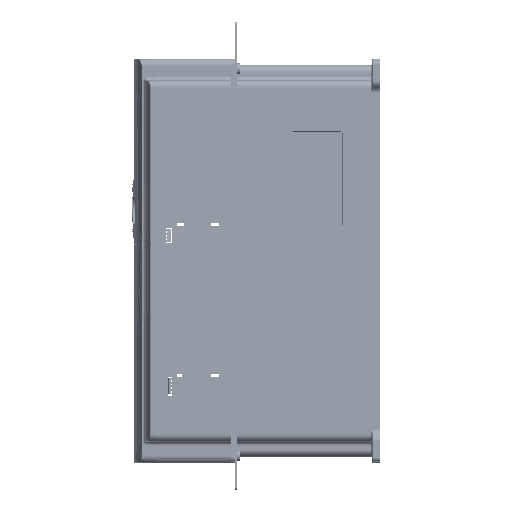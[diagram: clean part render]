
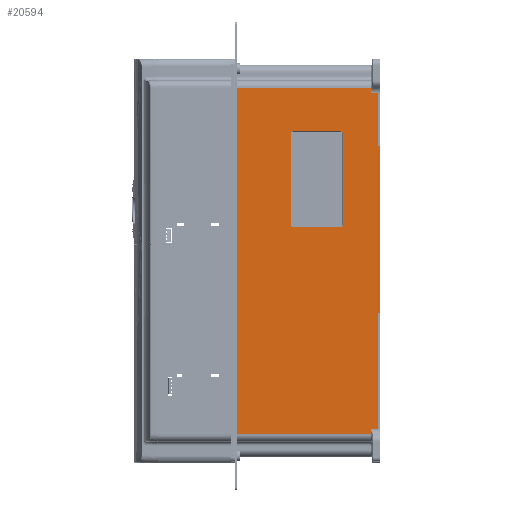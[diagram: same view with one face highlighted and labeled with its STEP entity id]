
A CAD part, left-side view. The second image highlights one B-rep face of the part: STEP entity #20594.
In plain terms, the highlighted planar face has unit normal (-1, 0, 0).
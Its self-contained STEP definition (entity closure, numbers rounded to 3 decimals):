
#2=CARTESIAN_POINT('',(-80.,-63.,29.));
#3=DIRECTION('',(1.,0.,0.));
#4=DIRECTION('',(0.,-1.,0.));
#5=AXIS2_PLACEMENT_3D('',#2,#3,#4);
#7=DIRECTION('',(0.,0.,-1.));
#8=VECTOR('',#7,71.4);
#9=CARTESIAN_POINT('',(-80.,-65.458,100.4));
#10=LINE('',#9,#8);
#11=CARTESIAN_POINT('',(-80.,-63.,100.4));
#12=DIRECTION('',(1.,0.,0.));
#13=DIRECTION('',(0.,0.,1.));
#14=AXIS2_PLACEMENT_3D('',#11,#12,#13);
#16=DIRECTION('',(0.,-1.,0.));
#17=VECTOR('',#16,36.4);
#18=CARTESIAN_POINT('',(-80.,-26.6,102.858));
#19=LINE('',#18,#17);
#20=CARTESIAN_POINT('',(-80.,-26.6,100.4));
#21=DIRECTION('',(1.,0.,0.));
#22=DIRECTION('',(0.,1.,0.));
#23=AXIS2_PLACEMENT_3D('',#20,#21,#22);
#25=DIRECTION('',(0.,0.,1.));
#26=VECTOR('',#25,71.4);
#27=CARTESIAN_POINT('',(-80.,-24.142,29.));
#28=LINE('',#27,#26);
#29=CARTESIAN_POINT('',(-80.,-26.6,29.));
#30=DIRECTION('',(1.,0.,0.));
#31=DIRECTION('',(0.,0.,-1.));
#32=AXIS2_PLACEMENT_3D('',#29,#30,#31);
#34=DIRECTION('',(0.,1.,0.));
#35=VECTOR('',#34,36.4);
#36=CARTESIAN_POINT('',(-80.,-63.,26.542));
#37=LINE('',#36,#35);
#38=DIRECTION('',(0.,0.,-1.));
#39=VECTOR('',#38,4.071);
#40=CARTESIAN_POINT('',(-80.,-87.5,137.));
#41=LINE('',#40,#39);
#42=DIRECTION('',(0.,0.,1.));
#43=VECTOR('',#42,42.129);
#44=CARTESIAN_POINT('',(-80.,-93.5,90.8));
#45=LINE('',#44,#43);
#46=DIRECTION('',(0.,1.,0.));
#47=VECTOR('',#46,1.5);
#48=CARTESIAN_POINT('',(-80.,-95.,90.8));
#49=LINE('',#48,#47);
#50=DIRECTION('',(0.,1.,0.));
#51=VECTOR('',#50,1.5);
#52=CARTESIAN_POINT('',(-80.,-95.,-40.8));
#53=LINE('',#52,#51);
#54=DIRECTION('',(0.,0.,1.));
#55=VECTOR('',#54,92.129);
#56=CARTESIAN_POINT('',(-80.,-93.5,-132.929));
#57=LINE('',#56,#55);
#58=DIRECTION('',(0.,0.,-1.));
#59=VECTOR('',#58,4.071);
#60=CARTESIAN_POINT('',(-80.,-87.5,-132.929));
#61=LINE('',#60,#59);
#62=DIRECTION('',(0.,-1.,0.));
#63=VECTOR('',#62,107.5);
#64=CARTESIAN_POINT('',(-80.,20.,-137.));
#65=LINE('',#64,#63);
#66=DIRECTION('',(0.,0.,1.));
#67=VECTOR('',#66,274.);
#68=CARTESIAN_POINT('',(-80.,20.,-137.));
#69=LINE('',#68,#67);
#70=DIRECTION('',(0.,-1.,0.));
#71=VECTOR('',#70,107.5);
#72=CARTESIAN_POINT('',(-80.,20.,137.));
#73=LINE('',#72,#71);
#11767=DIRECTION('',(0.,0.,1.));
#11768=VECTOR('',#11767,131.6);
#11769=CARTESIAN_POINT('',(-80.,-95.,-40.8));
#11770=LINE('',#11769,#11768);
#13605=DIRECTION('',(0.,-1.,0.));
#13606=VECTOR('',#13605,6.);
#13607=CARTESIAN_POINT('',(-80.,-87.5,
-132.929));
#13608=LINE('',#13607,#13606);
#16298=DIRECTION('',(0.,1.,0.));
#16299=VECTOR('',#16298,6.);
#16300=CARTESIAN_POINT('',(-80.,-93.5,132.929));
#16301=LINE('',#16300,#16299);
#16678=CARTESIAN_POINT('',(-80.,-93.5,-132.929));
#16679=CARTESIAN_POINT('',(-80.,-93.5,-40.8));
#16680=VERTEX_POINT('',#16678);
#16681=VERTEX_POINT('',#16679);
#16682=CARTESIAN_POINT('',(-80.,-93.5,90.8));
#16683=CARTESIAN_POINT('',(-80.,-93.5,132.929));
#16684=VERTEX_POINT('',#16682);
#16685=VERTEX_POINT('',#16683);
#17233=CARTESIAN_POINT('',(-80.,-95.,-40.8));
#17234=VERTEX_POINT('',#17233);
#17237=CARTESIAN_POINT('',(-80.,-95.,90.8));
#17238=VERTEX_POINT('',#17237);
#18262=CARTESIAN_POINT('',(-80.,-87.5,137.));
#18263=CARTESIAN_POINT('',(-80.,-87.5,132.929));
#18264=VERTEX_POINT('',#18262);
#18265=VERTEX_POINT('',#18263);
#18607=CARTESIAN_POINT('',(-80.,-65.458,29.));
#18608=CARTESIAN_POINT('',(-80.,-63.,26.542));
#18609=VERTEX_POINT('',#18607);
#18610=VERTEX_POINT('',#18608);
#18615=CARTESIAN_POINT('',(-80.,-26.6,26.542));
#18616=VERTEX_POINT('',#18615);
#18619=CARTESIAN_POINT('',(-80.,-24.142,29.));
#18620=VERTEX_POINT('',#18619);
#18623=CARTESIAN_POINT('',(-80.,-24.142,100.4));
#18624=VERTEX_POINT('',#18623);
#18627=CARTESIAN_POINT('',(-80.,-26.6,102.858));
#18628=VERTEX_POINT('',#18627);
#18631=CARTESIAN_POINT('',(-80.,-63.,102.858));
#18632=VERTEX_POINT('',#18631);
#18635=CARTESIAN_POINT('',(-80.,-65.458,100.4));
#18636=VERTEX_POINT('',#18635);
#18936=CARTESIAN_POINT('',(-80.,-87.5,
-132.929));
#18937=VERTEX_POINT('',#18936);
#20041=CARTESIAN_POINT('',(-80.,20.,-137.));
#20042=CARTESIAN_POINT('',(-80.,20.,137.));
#20043=VERTEX_POINT('',#20041);
#20044=VERTEX_POINT('',#20042);
#20139=CARTESIAN_POINT('',(-80.,-87.5,-137.));
#20140=VERTEX_POINT('',#20139);
#20545=CARTESIAN_POINT('',(-80.,-95.,-155.));
#20546=DIRECTION('',(-1.,0.,0.));
#20547=DIRECTION('',(0.,0.,1.));
#20548=AXIS2_PLACEMENT_3D('',#20545,#20546,#20547);
#20549=PLANE('',#20548);
#20551=ORIENTED_EDGE('',*,*,#20550,.T.);
#20553=ORIENTED_EDGE('',*,*,#20552,.F.);
#20555=ORIENTED_EDGE('',*,*,#20554,.F.);
#20557=ORIENTED_EDGE('',*,*,#20556,.F.);
#20559=ORIENTED_EDGE('',*,*,#20558,.F.);
#20561=ORIENTED_EDGE('',*,*,#20560,.T.);
#20563=ORIENTED_EDGE('',*,*,#20562,.F.);
#20565=ORIENTED_EDGE('',*,*,#20564,.F.);
#20567=ORIENTED_EDGE('',*,*,#20566,.T.);
#20569=ORIENTED_EDGE('',*,*,#20568,.F.);
#20571=ORIENTED_EDGE('',*,*,#20570,.T.);
#20573=ORIENTED_EDGE('',*,*,#20572,.T.);
#20574=EDGE_LOOP('',(#20551,#20553,#20555,#20557,#20559,#20561,#20563,#20565,
#20567,#20569,#20571,#20573));
#20575=FACE_OUTER_BOUND('',#20574,.F.);
#20577=ORIENTED_EDGE('',*,*,#20576,.F.);
#20579=ORIENTED_EDGE('',*,*,#20578,.F.);
#20581=ORIENTED_EDGE('',*,*,#20580,.F.);
#20583=ORIENTED_EDGE('',*,*,#20582,.F.);
#20585=ORIENTED_EDGE('',*,*,#20584,.F.);
#20587=ORIENTED_EDGE('',*,*,#20586,.F.);
#20589=ORIENTED_EDGE('',*,*,#20588,.F.);
#20591=ORIENTED_EDGE('',*,*,#20590,.F.);
#20592=EDGE_LOOP('',(#20577,#20579,#20581,#20583,#20585,#20587,#20589,#20591));
#20593=FACE_BOUND('',#20592,.F.);
#6=CIRCLE('',#5,2.458);
#15=CIRCLE('',#14,2.458);
#24=CIRCLE('',#23,2.458);
#33=CIRCLE('',#32,2.458);
#20550=EDGE_CURVE('',#18264,#18265,#41,.T.);
#20552=EDGE_CURVE('',#16685,#18265,#16301,.T.);
#20554=EDGE_CURVE('',#16684,#16685,#45,.T.);
#20556=EDGE_CURVE('',#17238,#16684,#49,.T.);
#20558=EDGE_CURVE('',#17234,#17238,#11770,.T.);
#20560=EDGE_CURVE('',#17234,#16681,#53,.T.);
#20562=EDGE_CURVE('',#16680,#16681,#57,.T.);
#20564=EDGE_CURVE('',#18937,#16680,#13608,.T.);
#20566=EDGE_CURVE('',#18937,#20140,#61,.T.);
#20568=EDGE_CURVE('',#20043,#20140,#65,.T.);
#20570=EDGE_CURVE('',#20043,#20044,#69,.T.);
#20572=EDGE_CURVE('',#20044,#18264,#73,.T.);
#20576=EDGE_CURVE('',#18609,#18610,#6,.T.);
#20578=EDGE_CURVE('',#18636,#18609,#10,.T.);
#20580=EDGE_CURVE('',#18632,#18636,#15,.T.);
#20582=EDGE_CURVE('',#18628,#18632,#19,.T.);
#20584=EDGE_CURVE('',#18624,#18628,#24,.T.);
#20586=EDGE_CURVE('',#18620,#18624,#28,.T.);
#20588=EDGE_CURVE('',#18616,#18620,#33,.T.);
#20590=EDGE_CURVE('',#18610,#18616,#37,.T.);
#20594=ADVANCED_FACE('',(#20575,#20593),#20549,.T.);
